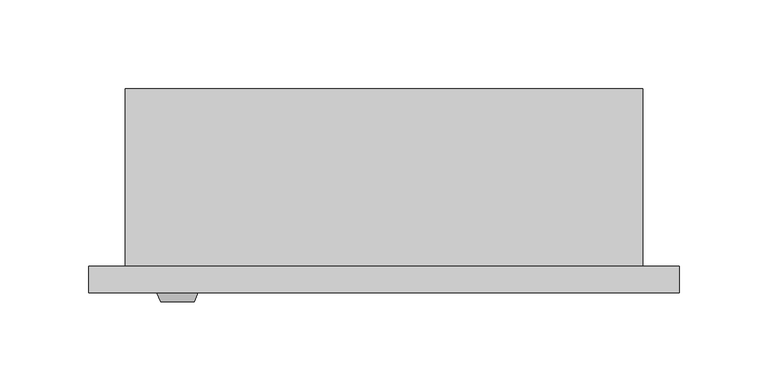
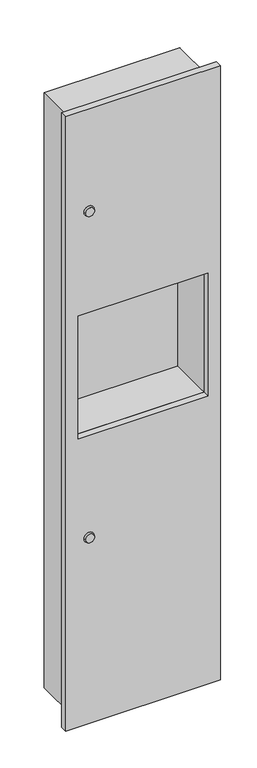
"""IFC4 building model written with IfcOpenShell, lengths in millimetres: proxy geometry, Paper Dispenser and Waste_Metlam_Recessed_19L Waste : 333w x 115d x 1397h (ML706RECMK2)."""

from ifc_helpers import new_model, si_unit, frame, origin, place, context, project, spatial, polyline, circle_curve, outline, extrude, faceted_brep, source, transform, mapped, element, save
from ifc_brep_helpers import plane_surface, revolved_surface, advanced_brep


def specialty_equipment_6ff9c7a3(model_context):
    return source(origin(), model_context, "Body", "SolidModel", [
        extrude(outline(polyline([(1336.6, 141.6), (1336.6, -141.6), (1053.4, -141.6), (1053.4, 141.6), (1336.6, 141.6)]), holes=[polyline([(1335.0, 140.0), (1055.0, 140.0), (1055.0, -140.0), (1335.0, -140.0), (1335.0, 140.0)])]), frame((0.0, -100.0, 0.0), z_axis=(0.0, 1.0, 0.0), x_axis=(0.0, 0.0, 1.0)), (0.0, 0.0, 1.0), 98.0),
        extrude(outline(polyline([(1335.0, 120.0), (1335.0, -120.0), (1315.0, -120.0), (1315.0, -10.0), (1325.0, -10.0), (1325.0, 10.0), (1315.0, 10.0), (1315.0, 120.0), (1335.0, 120.0)])), frame((0.0, -85.0, 0.0), z_axis=(0.0, 1.0, 0.0), x_axis=(0.0, 0.0, 1.0)), (0.0, 0.0, 1.0), 10.0),
        extrude(outline(polyline([(400.0, 166.5), (1797.0, 166.5), (1797.0, -166.5), (400.0, -166.5), (400.0, 166.5)]), holes=[polyline([(1335.0, 140.0), (1055.0, 140.0), (1055.0, -140.0), (1335.0, -140.0), (1335.0, 140.0)])]), frame((0.0, -115.0, 0.0), z_axis=(0.0, 1.0, 0.0), x_axis=(0.0, 0.0, 1.0)), (0.0, 0.0, 1.0), 15.0),
        faceted_brep([(-146.0, -100.0, 1774.5), (-146.0, -100.0, 422.5), (146.0, -100.0, 422.5), (146.0, -100.0, 1774.5), (-144.0, -100.0, 1772.5), (144.0, -100.0, 1772.5), (144.0, -100.0, 424.5), (-144.0, -100.0, 424.5), (-146.0, 0.0, 1774.5), (146.0, 0.0, 1774.5), (146.0, 0.0, 422.5), (-146.0, 0.0, 422.5), (-146.0, -2.0, 1774.5), (-146.0, -2.0, 422.5), (146.0, -2.0, 422.5), (146.0, -2.0, 1774.5), (-144.0, -2.0, 1772.5), (144.0, -2.0, 1772.5), (144.0, -2.0, 424.5), (-144.0, -2.0, 424.5)], [[[0, 1, 2, 3], [4, 5, 6, 7]], [[8, 9, 10, 11]], [[1, 0, 12, 8, 11, 13]], [[2, 1, 13, 11, 10, 14]], [[3, 2, 14, 10, 9, 15]], [[0, 3, 15, 9, 8, 12]], [[5, 4, 16, 17]], [[6, 5, 17, 18]], [[7, 6, 18, 19]], [[4, 7, 19, 16]], [[17, 16, 19, 18]]]),
        advanced_brep(
        [(-126.0, -120.0, 824.0), (-107.0, -120.0, 824.0), (-128.0, -115.0, 824.0), (-105.0, -115.0, 824.0)],
        [
            (0, 1, circle_curve(frame((-116.5, -120.0, 824.0), z_axis=(0.0, -1.0, 9.55630241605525e-12), x_axis=(-1.0, 0.0, 0.0)), 9.5)),
            (1, 0, circle_curve(frame((-116.5, -120.0, 824.0), z_axis=(0.0, -1.0, 9.55630241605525e-12), x_axis=(1.0, 0.0, 0.0)), 9.5)),
            (2, 3, circle_curve(frame((-116.5, -115.0, 824.0), z_axis=(0.0, 1.0, -9.55630241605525e-12), x_axis=(1.0, 0.0, 0.0)), 11.5)),
            (3, 2, circle_curve(frame((-116.5, -115.0, 824.0), z_axis=(0.0, 1.0, -9.55630241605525e-12), x_axis=(-1.0, 0.0, 0.0)), 11.5)),
            (3, 1),
            (0, 2),
        ],
        [
            plane_surface(frame((-116.5, -120.0, 824.0), z_axis=(0.0, -1.0, 0.0), x_axis=(0.0, 0.0, -1.0))),
            plane_surface(frame((-116.5, -115.0, 824.0), z_axis=(0.0, 1.0, 0.0), x_axis=(0.0, 0.0, -1.0))),
            revolved_surface(polyline([(-126.0, -120.0, 824.0), (-128.0, -115.0, 824.0)]), (-116.5, -143.75, 824.0), (0.0, 1.0, -9.55630241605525e-12)),
            revolved_surface(polyline([(-107.0, -120.0, 824.0), (-105.0, -115.0, 824.0)]), (-116.5, -143.75, 824.0), (0.0, 1.0, -9.55630241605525e-12)),
        ],
        [
            (0, [[1, 2]]),
            (1, [[3, 4]]),
            (2, [[-4, 5, -1, 6]]),
            (3, [[-3, -6, -2, -5]]),
        ],
    ),
        advanced_brep(
        [(-126.0, -120.0, 1566.0), (-107.0, -120.0, 1566.0), (-128.0, -115.0, 1566.0), (-105.0, -115.0, 1566.0)],
        [
            (0, 1, circle_curve(frame((-116.5, -120.0, 1566.0), z_axis=(0.0, -1.0, -7.038636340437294e-12), x_axis=(-1.0, 0.0, 0.0)), 9.5)),
            (1, 0, circle_curve(frame((-116.5, -120.0, 1566.0), z_axis=(0.0, -1.0, -7.038636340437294e-12), x_axis=(1.0, 0.0, 0.0)), 9.5)),
            (2, 3, circle_curve(frame((-116.5, -115.0, 1566.0), z_axis=(0.0, 1.0, 7.038636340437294e-12), x_axis=(1.0, 0.0, 0.0)), 11.5)),
            (3, 2, circle_curve(frame((-116.5, -115.0, 1566.0), z_axis=(0.0, 1.0, 7.038636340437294e-12), x_axis=(-1.0, 0.0, 0.0)), 11.5)),
            (3, 1),
            (0, 2),
        ],
        [
            plane_surface(frame((-116.5, -120.0, 1566.0), z_axis=(0.0, -1.0, 0.0), x_axis=(0.0, 0.0, -1.0))),
            plane_surface(frame((-116.5, -115.0, 1566.0), z_axis=(0.0, 1.0, 0.0), x_axis=(0.0, 0.0, -1.0))),
            revolved_surface(polyline([(-126.0, -120.0, 1566.0), (-128.0, -115.0, 1566.0)]), (-116.5, -143.75, 1566.0), (0.0, 1.0, 7.038636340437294e-12)),
            revolved_surface(polyline([(-107.0, -120.0, 1566.0), (-105.0, -115.0, 1566.0)]), (-116.5, -143.75, 1566.0), (0.0, 1.0, 7.038636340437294e-12)),
        ],
        [
            (0, [[1, 2]]),
            (1, [[3, 4]]),
            (2, [[-4, 5, -1, 6]]),
            (3, [[-3, -6, -2, -5]]),
        ],
    ),
    ])


if __name__ == "__main__":
    model = new_model("IFC4")
    model_context = context("Model", 3, world=origin())
    ifc_project = project(units=[si_unit("LENGTHUNIT", "METRE", prefix="MILLI")], contexts=[model_context])
    site = spatial("IfcSite", under=ifc_project)
    building = spatial("IfcBuilding", under=site)
    placement = place(None, origin())
    specialty_equipment_shape = specialty_equipment_6ff9c7a3(model_context)
    element("IfcBuildingElementProxy", 1, Name="Paper Dispenser and Waste_Metlam_Recessed_19L Waste : 333w x 115d x 1397h (ML706RECMK2)", ObjectType="Paper Dispenser and Waste_Metlam_Recessed_19L Waste : 333w x 115d x 1397h (ML706RECMK2)", at=placement, inside=building, context=model_context, shape_type="MappedRepresentation", body=[
        mapped(specialty_equipment_shape, transform((0.0, 0.0, 0.0), x_axis=(1.0, 0.0, 0.0), y_axis=(0.0, 1.0, 0.0), z_axis=(0.0, 0.0, 1.0))),
    ])
    save(model, "model.ifc")
